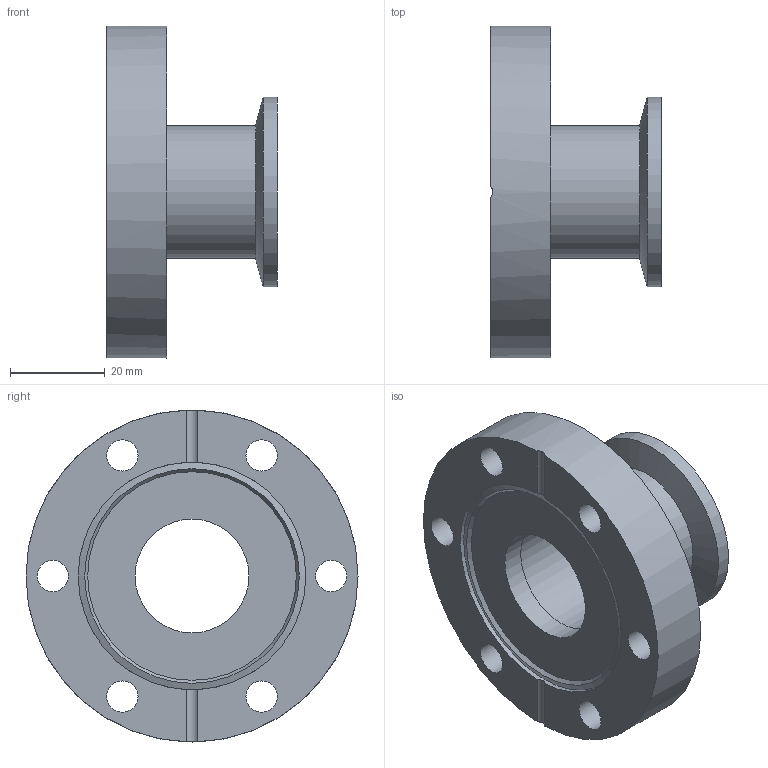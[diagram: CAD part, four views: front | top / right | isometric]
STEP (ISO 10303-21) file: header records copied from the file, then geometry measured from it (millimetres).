
FILE_DESCRIPTION( ( 'Unknown' ), '1' );
FILE_NAME( 'X:/Daten ( aktueller Bestand )/Projekte und Zeichnungen/Solid Edge/STP-Dateien/CF-Teile/7184.stp', 'Unknown', ( 'Unknown' ), ( 'Unknown' ), 'PSStep 14.0', 'Unknown', ' ' );
FILE_SCHEMA( ( 'AUTOMOTIVE_DESIGN { 1 0 10303 214 1 1 1 1 }' ) );
Length unit declared in the file: millimetre
Products named in the file (3): Assem1; 7184-3; 1524-3
Assembly tree (2 placements, depth 2):
  Assem1
    7184-3
    1524-3
Bounding box: 36 x 70 x 70 mm (x, y, z)
Volume: 44884.2 mm3; surface area: 18440.7 mm2
Topology: 2 solids, 2 shells, 27 faces, 67 edges, 46 vertices
Faces by surface type: cylinder 16, plane 8, cone 3
Full cylindrical faces by diameter (mm): 6.6 x6, 24 x2, 26.2 x1, 28 x2, 40 x1, 48 x1, 70 x1
Entity records: 1006 total; most frequent: CARTESIAN_POINT 160, DIRECTION 130, ORIENTED_EDGE 82, AXIS2_PLACEMENT_3D 63, EDGE_LOOP 62, FACE_OUTER_BOUND 41, EDGE_CURVE 41, VERTEX_POINT 37
